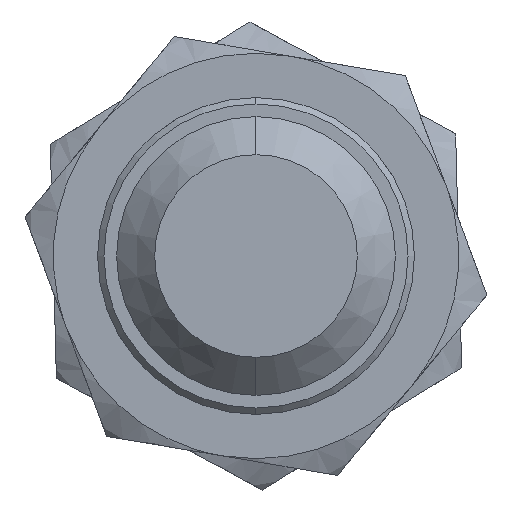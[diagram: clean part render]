
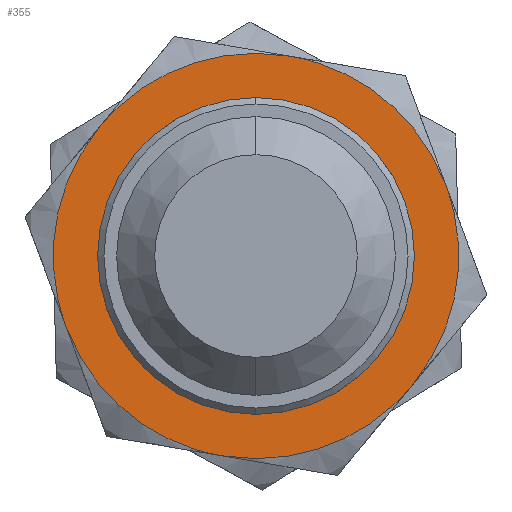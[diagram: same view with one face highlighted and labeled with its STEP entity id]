
A CAD part, left-side view. The second image highlights one B-rep face of the part: STEP entity #355.
In plain terms, the highlighted planar face has unit normal (-1, 0, 0) as drawn and (1, 0, 0) by its records, which use the part's own axes.
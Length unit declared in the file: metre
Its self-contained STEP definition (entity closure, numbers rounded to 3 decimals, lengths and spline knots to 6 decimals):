
#23 = EDGE_CURVE ( 'NONE', #1384, #137, #982, .T. ) ;
#72 = PLANE ( 'NONE',  #544 ) ;
#75 = ORIENTED_EDGE ( 'NONE', *, *, #603, .T. ) ;
#97 = CARTESIAN_POINT ( 'NONE',  ( 0.005, -0.016785, 0.002928 ) ) ;
#109 = EDGE_CURVE ( 'NONE', #137, #1306, #493, .T. ) ;
#114 = DIRECTION ( 'NONE',  ( 1., 0., 0. ) ) ;
#134 = DIRECTION ( 'NONE',  ( 0., 0., -1. ) ) ;
#137 = VERTEX_POINT ( 'NONE', #1081 ) ;
#160 = CARTESIAN_POINT ( 'NONE',  ( 0.005, 0.005856, -0.016 ) ) ;
#230 = AXIS2_PLACEMENT_3D ( 'NONE', #898, #114, #1037 ) ;
#232 = CARTESIAN_POINT ( 'NONE',  ( 0.005, -0.016785, -0.002928 ) ) ;
#260 = VERTEX_POINT ( 'NONE', #1700 ) ;
#264 = CARTESIAN_POINT ( 'NONE',  ( 0.005, 0.013856, 0.008 ) ) ;
#277 = CARTESIAN_POINT ( 'NONE',  ( 0.005, 0., -0.016 ) ) ;
#283 = CARTESIAN_POINT ( 'NONE',  ( 0.005, 0.010928, -0.013072 ) ) ;
#285 = CARTESIAN_POINT ( 'NONE',  ( 0.005, 0.013856, -0.008 ) ) ;
#312 = ORIENTED_EDGE ( 'NONE', *, *, #538, .F. ) ;
#355 = ADVANCED_FACE ( 'NONE', ( #592, #1269 ), #72, .T. ) ;
#371 = EDGE_CURVE ( 'NONE', #1346, #1384, #539, .T. ) ;
#395 = CARTESIAN_POINT ( 'NONE',  ( 0.005, 0.013856, 0.008 ) ) ;
#437 = ORIENTED_EDGE ( 'NONE', *, *, #839, .T. ) ;
#457 = VERTEX_POINT ( 'NONE', #919 ) ;
#474 = EDGE_CURVE ( 'NONE', #260, #457, #558, .T. ) ;
#493 =( BOUNDED_CURVE ( )  B_SPLINE_CURVE ( 3, ( #852, #1726, #929, #264 ),
 .UNSPECIFIED., .F., .F. ) 
 B_SPLINE_CURVE_WITH_KNOTS ( ( 4, 4 ),
 ( 0., 0.016688 ),
 .UNSPECIFIED. ) 
 CURVE ( )  GEOMETRIC_REPRESENTATION_ITEM ( )  RATIONAL_B_SPLINE_CURVE ( ( 0.981, 0.893, 0.893, 0.981 ) ) 
 REPRESENTATION_ITEM ( '' )  );
#510 = EDGE_LOOP ( 'NONE', ( #1386, #437, #1513, #1197, #1166, #75 ) ) ;
#538 = EDGE_CURVE ( 'NONE', #1131, #1483, #791, .T. ) ;
#539 =( BOUNDED_CURVE ( )  B_SPLINE_CURVE ( 3, ( #1413, #1405, #1539, #1670 ),
 .UNSPECIFIED., .F., .F. ) 
 B_SPLINE_CURVE_WITH_KNOTS ( ( 4, 4 ),
 ( 0., 0.016688 ),
 .UNSPECIFIED. ) 
 CURVE ( )  GEOMETRIC_REPRESENTATION_ITEM ( )  RATIONAL_B_SPLINE_CURVE ( ( 0.981, 0.893, 0.893, 0.981 ) ) 
 REPRESENTATION_ITEM ( '' )  );
#544 = AXIS2_PLACEMENT_3D ( 'NONE', #988, #1135, #1260 ) ;
#555 = EDGE_LOOP ( 'NONE', ( #936, #312 ) ) ;
#558 =( BOUNDED_CURVE ( )  B_SPLINE_CURVE ( 3, ( #1621, #1193, #690, #1234 ),
 .UNSPECIFIED., .F., .F. ) 
 B_SPLINE_CURVE_WITH_KNOTS ( ( 4, 4 ),
 ( 0., 0.016688 ),
 .UNSPECIFIED. ) 
 CURVE ( )  GEOMETRIC_REPRESENTATION_ITEM ( )  RATIONAL_B_SPLINE_CURVE ( ( 0.981, 0.893, 0.893, 0.981 ) ) 
 REPRESENTATION_ITEM ( '' )  );
#566 = CARTESIAN_POINT ( 'NONE',  ( 0.005, 0., 0.0125 ) ) ;
#592 = FACE_BOUND ( 'NONE', #555, .T. ) ;
#593 = EDGE_CURVE ( 'NONE', #1483, #1131, #1100, .T. ) ;
#603 = EDGE_CURVE ( 'NONE', #1306, #260, #1592, .T. ) ;
#650 = CARTESIAN_POINT ( 'NONE',  ( 0.005, 0., 0.016 ) ) ;
#690 = CARTESIAN_POINT ( 'NONE',  ( 0.005, -0.010928, 0.013072 ) ) ;
#700 =( BOUNDED_CURVE ( )  B_SPLINE_CURVE ( 3, ( #1019, #97, #232, #1162 ),
 .UNSPECIFIED., .F., .T. ) 
 B_SPLINE_CURVE_WITH_KNOTS ( ( 4, 4 ),
 ( 0., 0.016688 ),
 .UNSPECIFIED. ) 
 CURVE ( )  GEOMETRIC_REPRESENTATION_ITEM ( )  RATIONAL_B_SPLINE_CURVE ( ( 0.981, 0.893, 0.893, 0.981 ) ) 
 REPRESENTATION_ITEM ( '' )  );
#791 = CIRCLE ( 'NONE', #230, 0.0125 ) ;
#839 = EDGE_CURVE ( 'NONE', #457, #1346, #700, .T. ) ;
#852 = CARTESIAN_POINT ( 'NONE',  ( 0.005, 0.013856, -0.008 ) ) ;
#898 = CARTESIAN_POINT ( 'NONE',  ( 0.005, 0., 0. ) ) ;
#918 = DIRECTION ( 'NONE',  ( 1., 0., 0. ) ) ;
#919 = CARTESIAN_POINT ( 'NONE',  ( 0.005, -0.013856, 0.008 ) ) ;
#929 = CARTESIAN_POINT ( 'NONE',  ( 0.005, 0.016785, 0.002928 ) ) ;
#936 = ORIENTED_EDGE ( 'NONE', *, *, #593, .F. ) ;
#982 =( BOUNDED_CURVE ( )  B_SPLINE_CURVE ( 3, ( #277, #160, #283, #285 ),
 .UNSPECIFIED., .F., .F. ) 
 B_SPLINE_CURVE_WITH_KNOTS ( ( 4, 4 ),
 ( 0., 0.016688 ),
 .UNSPECIFIED. ) 
 CURVE ( )  GEOMETRIC_REPRESENTATION_ITEM ( )  RATIONAL_B_SPLINE_CURVE ( ( 0.981, 0.893, 0.893, 0.981 ) ) 
 REPRESENTATION_ITEM ( '' )  );
#988 = CARTESIAN_POINT ( 'NONE',  ( 0.005, -0.016192, 0.016192 ) ) ;
#1019 = CARTESIAN_POINT ( 'NONE',  ( 0.005, -0.013856, 0.008 ) ) ;
#1037 = DIRECTION ( 'NONE',  ( 0., 0., -1. ) ) ;
#1081 = CARTESIAN_POINT ( 'NONE',  ( 0.005, 0.013856, -0.008 ) ) ;
#1089 = AXIS2_PLACEMENT_3D ( 'NONE', #1728, #918, #134 ) ;
#1100 = CIRCLE ( 'NONE', #1089, 0.0125 ) ;
#1109 = CARTESIAN_POINT ( 'NONE',  ( 0.005, 0.013856, 0.008 ) ) ;
#1116 = CARTESIAN_POINT ( 'NONE',  ( 0.005, -0.013856, -0.008 ) ) ;
#1131 = VERTEX_POINT ( 'NONE', #566 ) ;
#1135 = DIRECTION ( 'NONE',  ( 1., 0., 0. ) ) ;
#1162 = CARTESIAN_POINT ( 'NONE',  ( 0.005, -0.013856, -0.008 ) ) ;
#1166 = ORIENTED_EDGE ( 'NONE', *, *, #109, .T. ) ;
#1191 = CARTESIAN_POINT ( 'NONE',  ( 0.005, 0.010927, 0.013073 ) ) ;
#1193 = CARTESIAN_POINT ( 'NONE',  ( 0.005, -0.005856, 0.016 ) ) ;
#1197 = ORIENTED_EDGE ( 'NONE', *, *, #23, .T. ) ;
#1234 = CARTESIAN_POINT ( 'NONE',  ( 0.005, -0.013856, 0.008 ) ) ;
#1260 = DIRECTION ( 'NONE',  ( 0., 0., -1. ) ) ;
#1269 = FACE_OUTER_BOUND ( 'NONE', #510, .T. ) ;
#1306 = VERTEX_POINT ( 'NONE', #1109 ) ;
#1346 = VERTEX_POINT ( 'NONE', #1116 ) ;
#1384 = VERTEX_POINT ( 'NONE', #1391 ) ;
#1386 = ORIENTED_EDGE ( 'NONE', *, *, #474, .T. ) ;
#1390 = CARTESIAN_POINT ( 'NONE',  ( 0.005, 0., -0.0125 ) ) ;
#1391 = CARTESIAN_POINT ( 'NONE',  ( 0.005, 0., -0.016 ) ) ;
#1405 = CARTESIAN_POINT ( 'NONE',  ( 0.005, -0.010928, -0.013072 ) ) ;
#1413 = CARTESIAN_POINT ( 'NONE',  ( 0.005, -0.013856, -0.008 ) ) ;
#1469 = CARTESIAN_POINT ( 'NONE',  ( 0.005, 0.005855, 0.016 ) ) ;
#1483 = VERTEX_POINT ( 'NONE', #1390 ) ;
#1513 = ORIENTED_EDGE ( 'NONE', *, *, #371, .T. ) ;
#1539 = CARTESIAN_POINT ( 'NONE',  ( 0.005, -0.005856, -0.016 ) ) ;
#1592 =( BOUNDED_CURVE ( )  B_SPLINE_CURVE ( 3, ( #395, #1191, #1469, #650 ),
 .UNSPECIFIED., .F., .F. ) 
 B_SPLINE_CURVE_WITH_KNOTS ( ( 4, 4 ),
 ( 0., 0.016688 ),
 .UNSPECIFIED. ) 
 CURVE ( )  GEOMETRIC_REPRESENTATION_ITEM ( )  RATIONAL_B_SPLINE_CURVE ( ( 0.981, 0.894, 0.894, 0.983 ) ) 
 REPRESENTATION_ITEM ( '' )  );
#1621 = CARTESIAN_POINT ( 'NONE',  ( 0.005, 0., 0.016 ) ) ;
#1670 = CARTESIAN_POINT ( 'NONE',  ( 0.005, 0., -0.016 ) ) ;
#1700 = CARTESIAN_POINT ( 'NONE',  ( 0.005, 0., 0.016 ) ) ;
#1726 = CARTESIAN_POINT ( 'NONE',  ( 0.005, 0.016785, -0.002928 ) ) ;
#1728 = CARTESIAN_POINT ( 'NONE',  ( 0.005, 0., 0. ) ) ;
